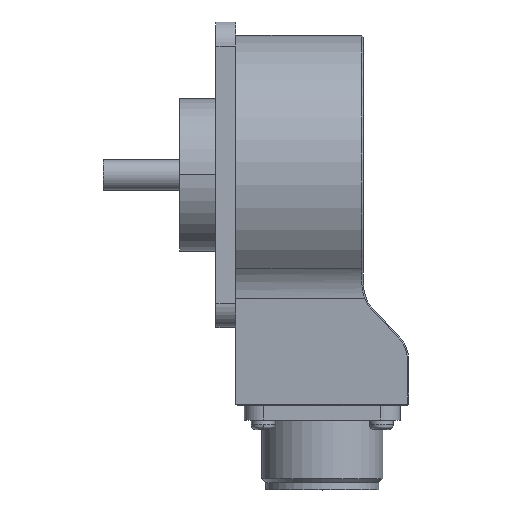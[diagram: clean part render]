
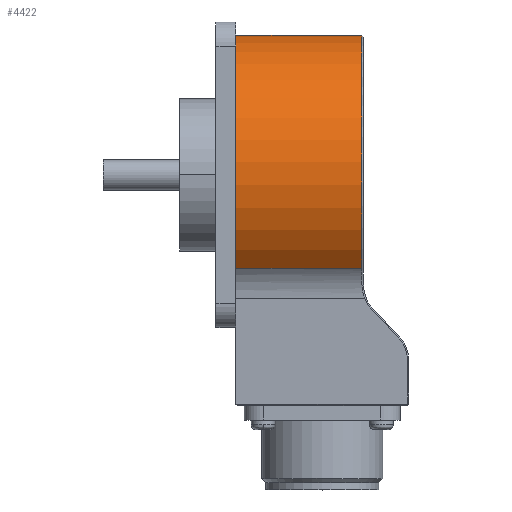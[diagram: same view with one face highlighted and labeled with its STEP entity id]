
A CAD part, top view. The second image highlights one B-rep face of the part: STEP entity #4422.
In plain terms, the highlighted cylindrical face has radius 29 mm (diameter 58 mm), a partial arc.
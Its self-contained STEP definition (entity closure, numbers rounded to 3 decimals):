
#196 = EDGE_CURVE ( 'NONE', #10728, #8924, #14047, .T. ) ;
#739 = DIRECTION ( 'NONE',  ( 1., 0., 0. ) ) ;
#1115 = VECTOR ( 'NONE', #9840, 1000. ) ;
#2079 = CIRCLE ( 'NONE', #7793, 29. ) ;
#2238 = AXIS2_PLACEMENT_3D ( 'NONE', #4085, #739, #13397 ) ;
#2499 = CARTESIAN_POINT ( 'NONE',  ( 8.068, 54.423, 0. ) ) ;
#2576 = DIRECTION ( 'NONE',  ( 1., 0., 0. ) ) ;
#3448 = CARTESIAN_POINT ( 'NONE',  ( 34.268, 25.423, 0. ) ) ;
#3770 = VECTOR ( 'NONE', #2576, 1000. ) ;
#3943 = DIRECTION ( 'NONE',  ( 1., 0., 0. ) ) ;
#4085 = CARTESIAN_POINT ( 'NONE',  ( 8.068, 25.423, 0. ) ) ;
#4309 = FACE_OUTER_BOUND ( 'NONE', #5895, .T. ) ;
#4422 = ADVANCED_FACE ( 'NONE', ( #4309 ), #6611, .T. ) ;
#4977 = ORIENTED_EDGE ( 'NONE', *, *, #6998, .T. ) ;
#5193 = ORIENTED_EDGE ( 'NONE', *, *, #7241, .F. ) ;
#5296 = CARTESIAN_POINT ( 'NONE',  ( 8.068, 6.004, 21.538 ) ) ;
#5895 = EDGE_LOOP ( 'NONE', ( #5193, #4977, #10929, #9374 ) ) ;
#6611 = CYLINDRICAL_SURFACE ( 'NONE', #2238, 29. ) ;
#6667 = AXIS2_PLACEMENT_3D ( 'NONE', #3448, #11419, #7015 ) ;
#6998 = EDGE_CURVE ( 'NONE', #7118, #7086, #2079, .T. ) ;
#7015 = DIRECTION ( 'NONE',  ( 0., 1., 0. ) ) ;
#7086 = VERTEX_POINT ( 'NONE', #7735 ) ;
#7118 = VERTEX_POINT ( 'NONE', #9815 ) ;
#7126 = LINE ( 'NONE', #2499, #3770 ) ;
#7241 = EDGE_CURVE ( 'NONE', #7118, #8924, #7126, .T. ) ;
#7735 = CARTESIAN_POINT ( 'NONE',  ( 8.068, 6.004, 21.538 ) ) ;
#7793 = AXIS2_PLACEMENT_3D ( 'NONE', #9588, #3943, #9674 ) ;
#8924 = VERTEX_POINT ( 'NONE', #11424 ) ;
#9374 = ORIENTED_EDGE ( 'NONE', *, *, #196, .T. ) ;
#9588 = CARTESIAN_POINT ( 'NONE',  ( 8.068, 25.423, 0. ) ) ;
#9674 = DIRECTION ( 'NONE',  ( 0., 1., 0. ) ) ;
#9815 = CARTESIAN_POINT ( 'NONE',  ( 8.068, 54.423, 0. ) ) ;
#9840 = DIRECTION ( 'NONE',  ( 1., 0., 0. ) ) ;
#10728 = VERTEX_POINT ( 'NONE', #14060 ) ;
#10929 = ORIENTED_EDGE ( 'NONE', *, *, #13629, .T. ) ;
#11419 = DIRECTION ( 'NONE',  ( -1., 0., 0. ) ) ;
#11424 = CARTESIAN_POINT ( 'NONE',  ( 34.268, 54.423, 0. ) ) ;
#13397 = DIRECTION ( 'NONE',  ( 0., 1., 0. ) ) ;
#13629 = EDGE_CURVE ( 'NONE', #7086, #10728, #14327, .T. ) ;
#14047 = CIRCLE ( 'NONE', #6667, 29. ) ;
#14060 = CARTESIAN_POINT ( 'NONE',  ( 34.268, 6.004, 21.538 ) ) ;
#14327 = LINE ( 'NONE', #5296, #1115 ) ;
